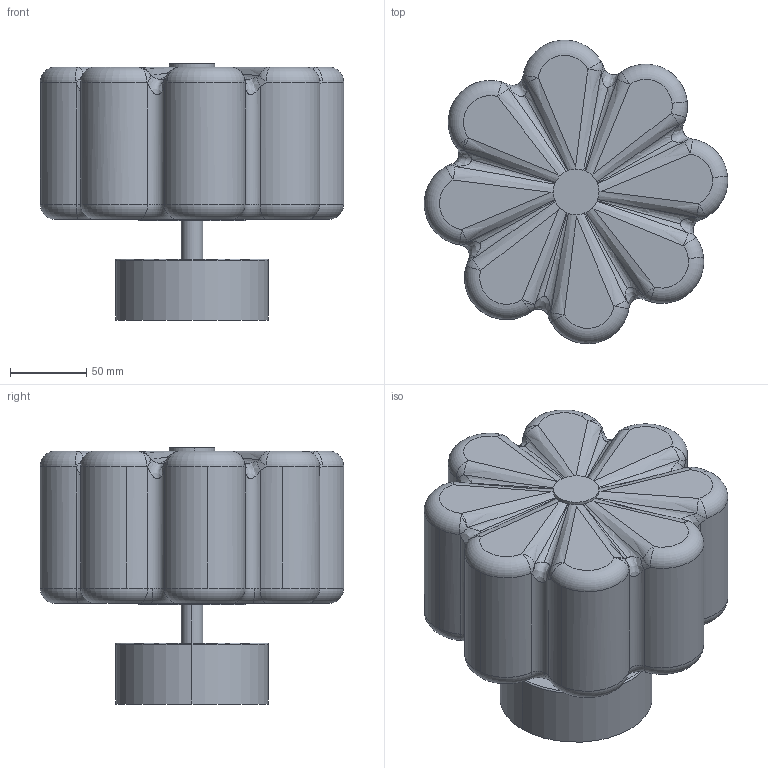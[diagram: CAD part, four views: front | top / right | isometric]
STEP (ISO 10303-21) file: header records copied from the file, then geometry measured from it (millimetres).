
FILE_DESCRIPTION (( 'STEP AP214' ), '1' );
FILE_NAME ('FLOW_A1339.STEP', '2024-10-22T10:03:01', ( '' ), ( '' ), 'SwSTEP 2.0', 'SolidWorks 2018', '' );
FILE_SCHEMA (( 'AUTOMOTIVE_DESIGN' ));
Length unit declared in the file: millimetre
Products named in the file (3): DEFITULIPA; estructura aplique; FLOW_A1339
Assembly tree (2 placements, depth 2):
  FLOW_A1339
    estructura aplique
    DEFITULIPA
Bounding box: 199.11 x 199.11 x 168 mm (x, y, z)
Volume: 2973708.9 mm3; surface area: 157311.1 mm2
Topology: 4 solids, 4 shells, 162 faces, 375 edges, 222 vertices
Faces by surface type: bspline 40, torus 34, cylinder 29, plane 25, sphere 18, cone 16
Entity records: 7845 total; most frequent: CARTESIAN_POINT 3669, ORIENTED_EDGE 750, DIRECTION 667, EDGE_CURVE 375, AXIS2_PLACEMENT_3D 311, VERTEX_POINT 222, CIRCLE 184, EDGE_LOOP 163
